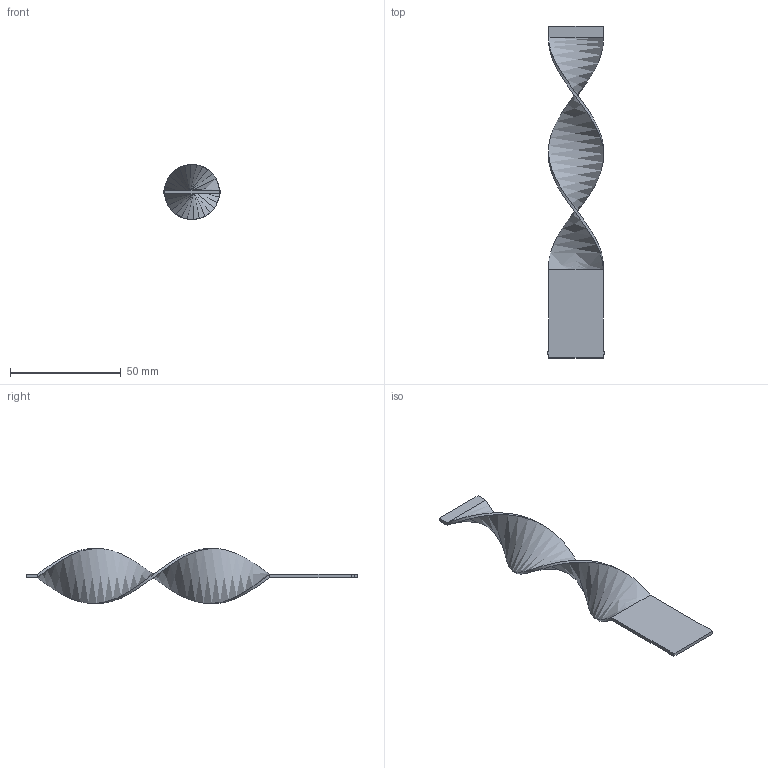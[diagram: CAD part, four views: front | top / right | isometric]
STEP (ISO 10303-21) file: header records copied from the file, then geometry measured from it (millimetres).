
FILE_DESCRIPTION (( 'STEP AP203' ), '1' );
FILE_NAME ('RLAS-25SMx150.STEP', '2015-12-10T14:24:24', ( 'Balzi' ), ( '' ), 'SwSTEP 2.0', 'SolidWorks 2015', '' );
FILE_SCHEMA (( 'CONFIG_CONTROL_DESIGN' ));
Length unit declared in the file: millimetre
Products named in the file (1): RLAS-25SMx150
Bounding box: 25.4 x 150 x 24.84 mm (x, y, z)
Volume: 5581.1 mm3; surface area: 8412.2 mm2
Topology: 1 solids, 1 shells, 22 faces, 52 edges, 32 vertices
Faces by surface type: plane 18, bspline 4
Entity records: 1481 total; most frequent: CARTESIAN_POINT 927, ORIENTED_EDGE 104, DIRECTION 86, EDGE_CURVE 52, VECTOR 48, LINE 48, VERTEX_POINT 32, EDGE_LOOP 22
